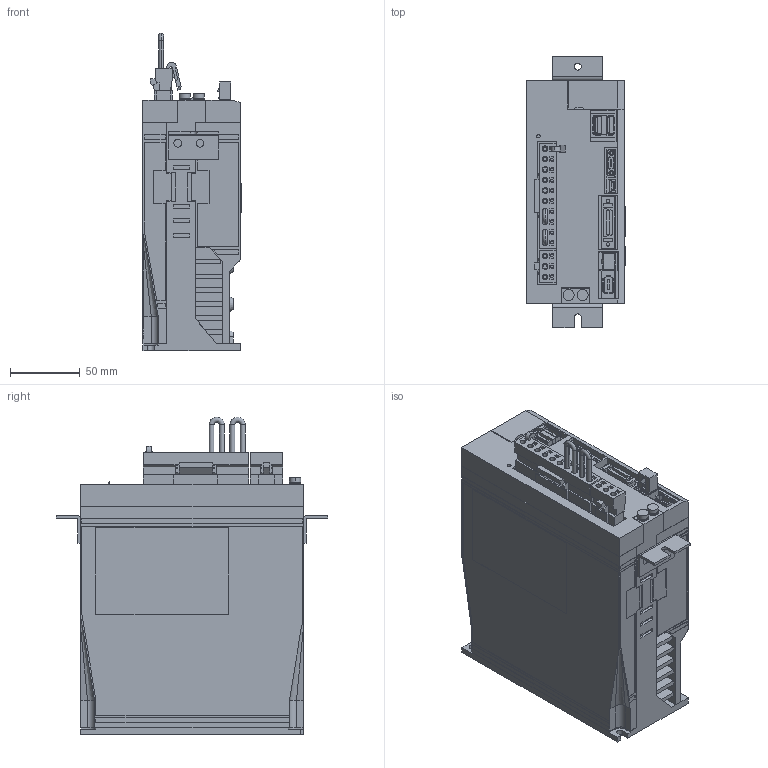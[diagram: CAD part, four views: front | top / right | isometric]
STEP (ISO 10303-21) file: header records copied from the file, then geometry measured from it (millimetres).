
FILE_DESCRIPTION (( 'STEP AP203' ), '1' );
FILE_NAME ('sgdv_5r5a1_a001.STEP', '2009-01-13T00:17:14', ( 'T' ), ( 'T' ), 'SwSTEP 2.0', 'SolidWorks 2006052', '' );
FILE_SCHEMA (( 'CONFIG_CONTROL_DESIGN' ));
Products named in the file (12): sgdv_5r5a1_a001_pin; sgdv_5r5a1_a001_cable; sgdv_5r5a1_a001_mount2; sgdv_5r5a1_a001; sgdv_5r5a1_a001_base; sgdv_5r5a1_a001_connector; sgdv_5r5a1_a001_connector_2; sgdv_5r5a1_a001_connector_1; sgdv_5r5a1_a001_cover; sgdv_5r5a1_a001_cover2; sgdv_5r5a1_a001_connector_3; sgdv_5r5a1_a001_mount1
Assembly tree (13 placements, depth 3):
  sgdv_5r5a1_a001
    sgdv_5r5a1_a001_connector_1
    sgdv_5r5a1_a001_cover2  x2
    sgdv_5r5a1_a001_cover
    sgdv_5r5a1_a001_connector_3
    sgdv_5r5a1_a001_mount2
    sgdv_5r5a1_a001_base
    sgdv_5r5a1_a001_mount1
    sgdv_5r5a1_a001_connector
      sgdv_5r5a1_a001_cable  x2
      sgdv_5r5a1_a001_pin
      sgdv_5r5a1_a001_connector_2
Bounding box: 70.5 x 195 x 228 mm (x, y, z)
Volume: 1883374.5 mm3; surface area: 171559.9 mm2
Topology: 12 solids, 12 shells, 1994 faces, 5197 edges, 3422 vertices
Faces by surface type: plane 1750, cylinder 226, cone 11, torus 4, bspline 2, sphere 1
Entity records: 60537 total; most frequent: CARTESIAN_POINT 10532, ORIENTED_EDGE 10234, DIRECTION 9524, EDGE_CURVE 5117, LINE 4644, VECTOR 4644, VERTEX_POINT 3370, AXIS2_PLACEMENT_3D 2440
